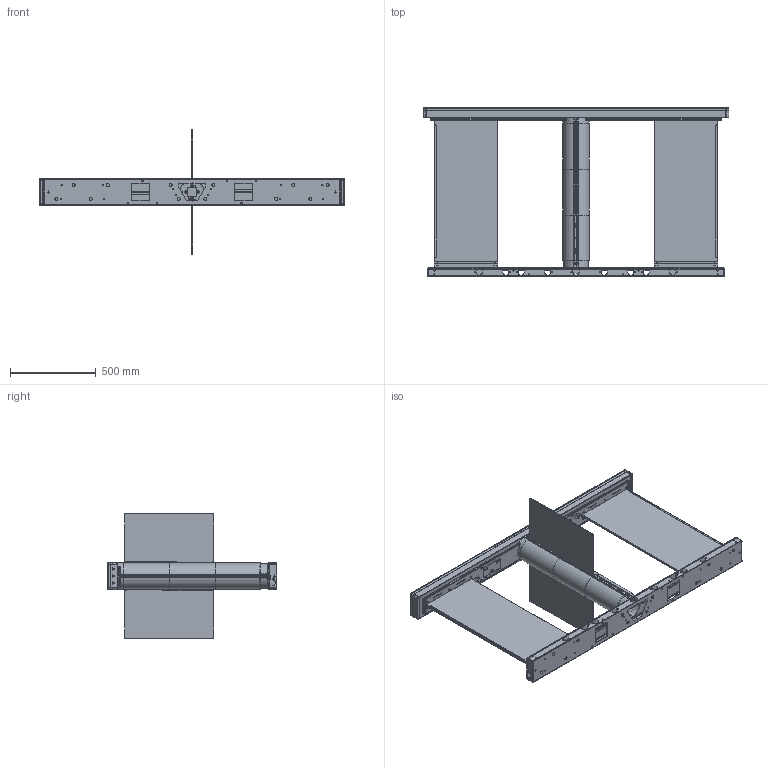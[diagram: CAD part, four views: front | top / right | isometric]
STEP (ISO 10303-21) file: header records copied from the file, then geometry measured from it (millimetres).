
FILE_DESCRIPTION (( 'STEP AP214' ), '1' );
FILE_NAME ('ユニ_センター【上付き：標準、下付き：標準】.STEP', '2023-02-27T04:02:24', ( 'cadcl' ), ( 'Hewlett-Packard Company' ), 'SwSTEP 2.0', 'SolidWorks 2022', '' );
FILE_SCHEMA (( 'AUTOMOTIVE_DESIGN' ));
Length unit declared in the file: millimetre
Products named in the file (56): Z07-00042-00_２．３：２．３; 201-06315-00_デフォルト; 201-06203-16; 201-06203-14; 201-06527-55; Z01-00599-00; 201-06315-69; 301-06197-01_施錠; 201-06527-42; 201-06315-04; 201-06313-87; Z03-00854-00; 201-06515-65; 201-06315-02; 201-06316-63; 201-06316-25; 201-06527-47; 201-06515-68; 201-06527-43; 201-06316-23; 201-06315-18; 201-06315-32; 201-06515-66; Z03-00734-00; 201-06515-84; Z07-00047-00_かしめ４．１ｍｍ; 201-06316-64; 201-06203-11; 201-06315-57; 201-06316-62_施錠; 201-06515-73; 201-06210-58; 201-06515-70; 201-06315-19; Z01-00618-00; 201-06527-41; 201-06313-33; 201-06203-15; 201-06515-71; 201-06515-22_メイン閉扉・サブ閉扉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
Assembly tree (131 placements, depth 4):
  ユニ_センター【上付き：標準、下付き：標準】
    201-06527-47
      201-06527-52
        201-06527-58
        201-06515-84
        201-06527-55
        Z01-00599-00  x10
      201-06316-06
        201-06313-33
      201-06316-62_施錠
        201-06316-63
        Z07-00047-00_かしめ４．１ｍｍ  x4
        301-06197-01_施錠
      201-06316-23  x2
        201-06210-58
      201-06316-25  x2
        201-06203-15
        201-06203-14
      201-06203-13  x2
      201-06203-16  x2
      201-06226-36
    201-06515-22_メイン閉扉・サブ閉扉
      201-06515-65
      201-06313-87
      201-06515-66  x2
        201-06515-67
        201-06527-41
      201-06527-42  x2
        201-06315-57
        201-06527-43
      201-06316-64
      201-06515-68
      201-06515-69_上位アセンブリ用  x2
        201-06515-70
      201-06515-71  x2
      201-06515-73  x2
      201-06515-74  x2
      Z01-00618-00  x18
      Z03-00854-00  x4
    201-06315-00_デフォルト
      201-06312-02
      201-06315-02  x2
        201-06315-66
        201-06204-73
        201-06203-11
      201-06315-04  x2
        201-06315-67
        201-06204-73
        201-06203-11
      201-06315-68  x2
      201-06315-69  x2
      Z03-00734-00  x19
      Z07-00042-00_２．３：２．３  x8
    201-06315-18  x2
      201-06315-19
    201-06315-31  x2
      201-06315-32
    201-06203-55  x2
Bounding box: 1780 x 985 x 730 mm (x, y, z)
Volume: 15530090.8 mm3; surface area: 6500374.3 mm2
Topology: 123 solids, 123 shells, 4631 faces, 11684 edges, 7450 vertices
Faces by surface type: plane 2407, cylinder 1833, cone 237, torus 118, bspline 36
Entity records: 84114 total; most frequent: CARTESIAN_POINT 14927, DIRECTION 14327, ORIENTED_EDGE 13522, EDGE_CURVE 6761, AXIS2_PLACEMENT_3D 5056, VERTEX_POINT 4354, VECTOR 4215, LINE 4215
